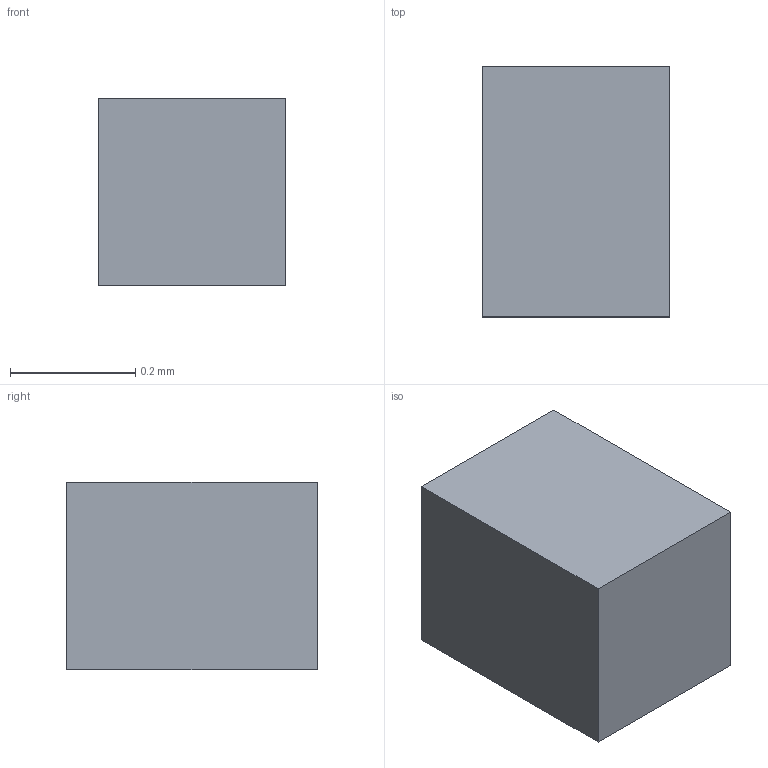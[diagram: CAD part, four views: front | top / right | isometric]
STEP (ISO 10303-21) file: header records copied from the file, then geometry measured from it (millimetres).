
FILE_DESCRIPTION(/* description */ ('STEP AP242 Edition 2','CAx-IF Rec.Pracs.---Representation and Presentation of Product Manufacturing Information (PMI)---4.0---2014-10-13','CAx-IF Rec.Pracs.---3D Tessellated Geometry---0.4---2014-09-14','2;1','CAx-IF Rec.Pracs.---User Defined Attributes---1.5---2016-08-15'),/* implementation_level */ '2;1');
FILE_NAME(/* name */ 'HIRO_Assembly - SMD Capacitor, Configurable, Raspberry Pi Pico-R3_C3 (1)',/* time_stamp */ '2026-11-04T05:23:28Z',/* author */ (''),/* organization */ (''),/* preprocessor_version */ 'ST-DEVELOPER v20',/* originating_system */ 'ONSHAPE BY PTC INC, 1.223',/* authorisation */ ' ');
FILE_SCHEMA (('AP242_MANAGED_MODEL_BASED_3D_ENGINEERING_MIM_LF { 1 0 10303 442 3 1 4 }'));
Length unit declared in the file: metre
Products named in the file (1): SMD Capacitor, Configurable, Raspberry Pi Pico-R3_C3
Bounding box: 0.3 x 0.4 x 0.3 mm (x, y, z)
Volume: 0 mm3; surface area: 0.7 mm2
Topology: 1 solids, 1 shells, 6 faces, 12 edges, 8 vertices
Faces by surface type: plane 6
Entity records: 221 total; most frequent: CARTESIAN_POINT 27, DIRECTION 26, ORIENTED_EDGE 24, EDGE_CURVE 12, LINE 12, VECTOR 12, VERTEX_POINT 8, PRESENTATION_STYLE_ASSIGNMENT 7
